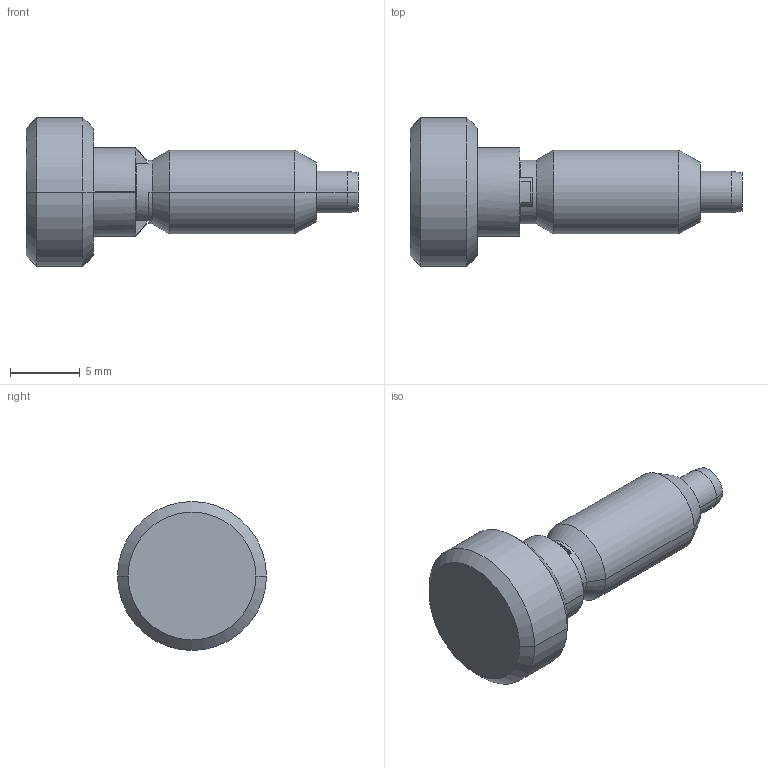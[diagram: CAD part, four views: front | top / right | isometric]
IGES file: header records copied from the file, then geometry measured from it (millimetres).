
Start section:  PTC IGES file: slm6-part.igs
Global section: file name: slm6-part.igs; native system: Pro/ENGINEER by Parametric Technology Corporation; preprocessor: 2002350; author: chant; organization: Unknown; date: 061214.161026; units: inch
Bounding box: 23.77 x 10.67 x 10.67 mm (x, y, z)
Surface area: 907.6 mm2 (no closed solid volume)
Topology: 0 solids, 0 shells, 54 faces, 347 edges, 431 vertices
Faces by surface type: revolution 32, bspline 22
